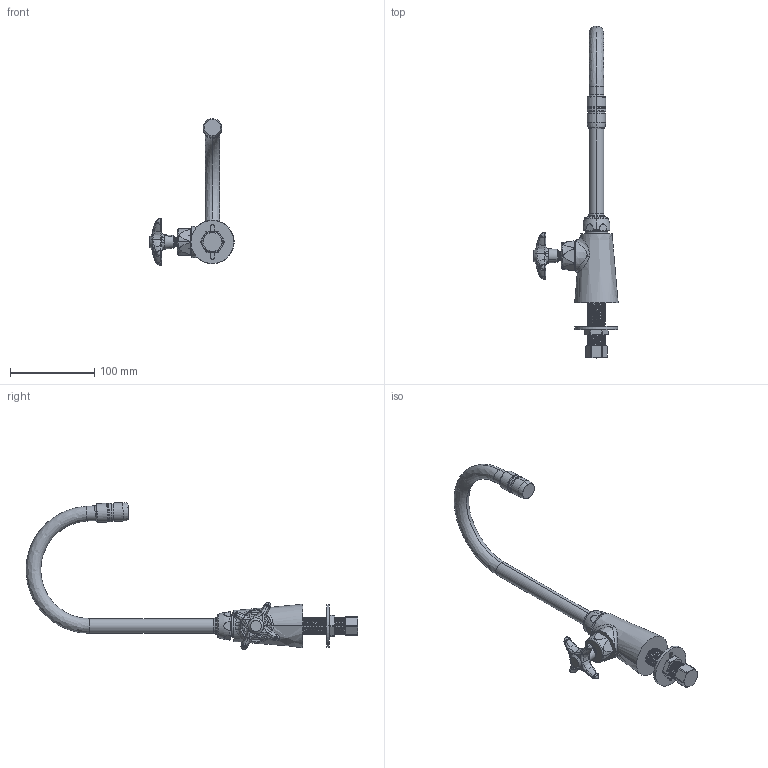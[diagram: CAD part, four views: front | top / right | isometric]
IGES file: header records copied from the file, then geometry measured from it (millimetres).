
Start section:  PTC IGES file: LWS2-B22-A.igs
Global section: file name: LWS2-B22-A.igs; native system: Creo Parametric by PTC Inc.; preprocessor: 2014500; author: usch_engrender; organization: Unknown; date: 20151203.192055; units: inch
Bounding box: 99.96 x 393.74 x 174.26 mm (x, y, z)
Volume: 304463.2 mm3; surface area: 61449.2 mm2
Topology: 1 solids, 4 shells, 457 faces, 1125 edges, 690 vertices
Faces by surface type: revolution 245, bspline 212
